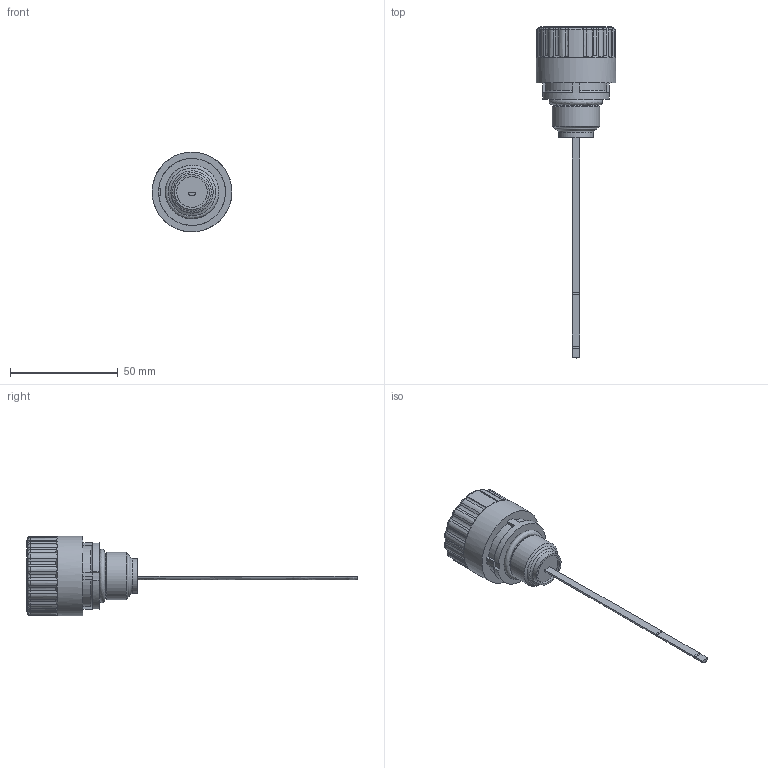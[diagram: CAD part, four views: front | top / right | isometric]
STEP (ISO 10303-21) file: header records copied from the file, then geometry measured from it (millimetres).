
FILE_DESCRIPTION((''),'2;1');
FILE_NAME('U:\Users\r.stiegele\L1_0406-79(12152700).stp', '2014-03-11T08:49:10',('User'),('SDRC'),'I-DEAS Master Series 9','UNIX', 'Yes');
FILE_SCHEMA(('AUTOMOTIVE_DESIGN { 1 0 10303 214 1 1 1 1 }'));
Length unit declared in the file: millimetre
Products named in the file (1): L1_0406-79(12152700)
Bounding box: 37 x 153.9 x 37 mm (x, y, z)
Volume: 39209.6 mm3; surface area: 8599.3 mm2
Topology: 1 solids, 1 shells, 447 faces, 1196 edges, 765 vertices
Faces by surface type: bspline 447
Entity records: 13901 total; most frequent: CARTESIAN_POINT 6865, ORIENTED_EDGE 2382, EDGE_CURVE 1191, VERTEX_POINT 765, B_SPLINE_CURVE_WITH_KNOTS 579, EDGE_LOOP 466, FACE_OUTER_BOUND 447, ADVANCED_FACE 447
